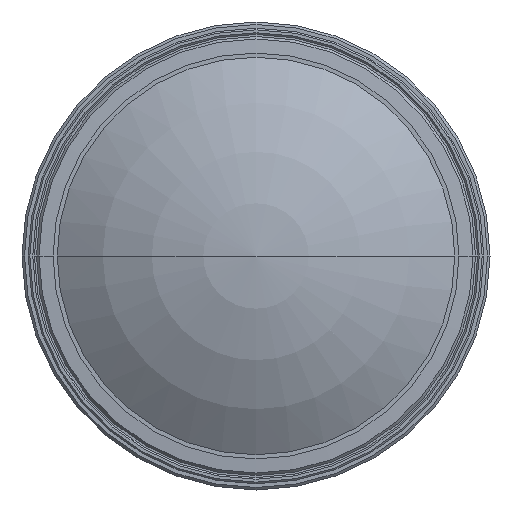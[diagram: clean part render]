
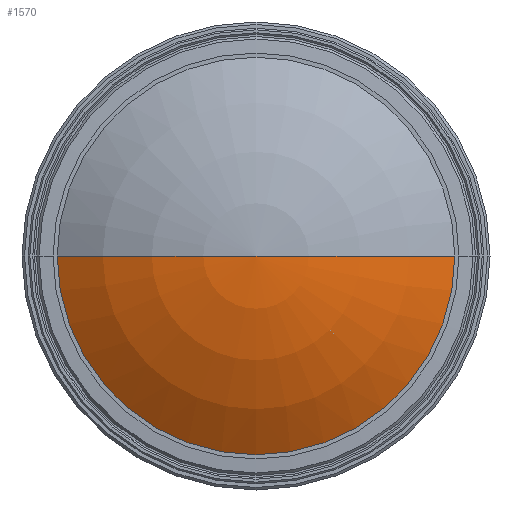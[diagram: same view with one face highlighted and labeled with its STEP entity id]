
A CAD part, left-side view. The second image highlights one B-rep face of the part: STEP entity #1570.
In plain terms, the highlighted toroidal (fillet/blend) face has major radius 0.031 mm and minor radius 41.859 mm.
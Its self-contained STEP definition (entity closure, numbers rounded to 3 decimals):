
#1100=CARTESIAN_POINT('',(-44.623,-24.,0.));
#1110=VERTEX_POINT('',#1100);
#1190=CARTESIAN_POINT('',(-44.623,24.,0.));
#1200=VERTEX_POINT('',#1190);
#1230=CARTESIAN_POINT('',(-44.623,0.,0.));
#1240=DIRECTION('',(1.,0.,0.));
#1250=DIRECTION('',(0.,1.,0.));
#1260=AXIS2_PLACEMENT_3D('',#1230,#1240,#1250);
#1270=CIRCLE('',#1260,24.);
#1280=EDGE_CURVE('',#1110,#1200,#1270,.T.);
#1330=CARTESIAN_POINT('',(-10.349,0.,0.));
#1340=DIRECTION('',(1.,0.,0.));
#1350=DIRECTION('',(0.,1.,0.));
#1360=AXIS2_PLACEMENT_3D('',#1330,#1340,#1350);
#1370=DEGENERATE_TOROIDAL_SURFACE('',#1360,0.031,
41.859,.F.);
#1380=CARTESIAN_POINT('',(-10.349,-0.031,0.));
#1390=DIRECTION('',(0.,0.,1.));
#1400=DIRECTION('',(1.,0.,0.));
#1410=AXIS2_PLACEMENT_3D('',#1380,#1390,#1400);
#1420=CIRCLE('',#1410,41.859);
#1430=CARTESIAN_POINT('',(-52.208,0.,0.));
#1440=VERTEX_POINT('',#1430);
#1450=EDGE_CURVE('',#1200,#1440,#1420,.T.);
#1460=ORIENTED_EDGE('',*,*,#1450,.F.);
#1470=CARTESIAN_POINT('',(-10.349,0.031,0.));
#1480=DIRECTION('',(0.,0.,-1.));
#1490=DIRECTION('',(1.,0.,0.));
#1500=AXIS2_PLACEMENT_3D('',#1470,#1480,#1490);
#1510=CIRCLE('',#1500,41.859);
#1520=EDGE_CURVE('',#1110,#1440,#1510,.T.);
#1530=ORIENTED_EDGE('',*,*,#1520,.T.);
#1540=ORIENTED_EDGE('',*,*,#1280,.F.);
#1550=EDGE_LOOP('',(#1540,#1530,#1460));
#1560=FACE_OUTER_BOUND('',#1550,.T.);
#1570=ADVANCED_FACE('',(#1560),#1370,.F.);
